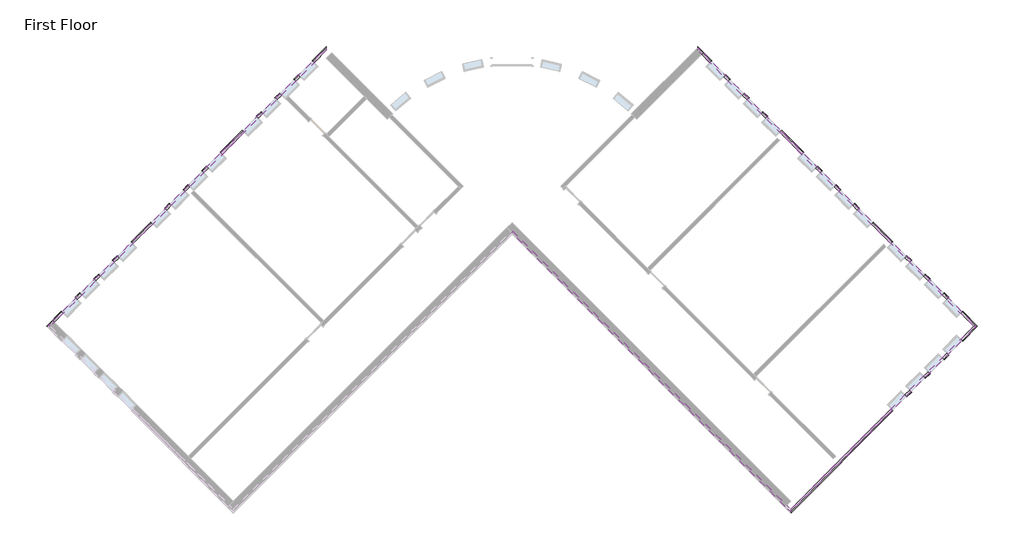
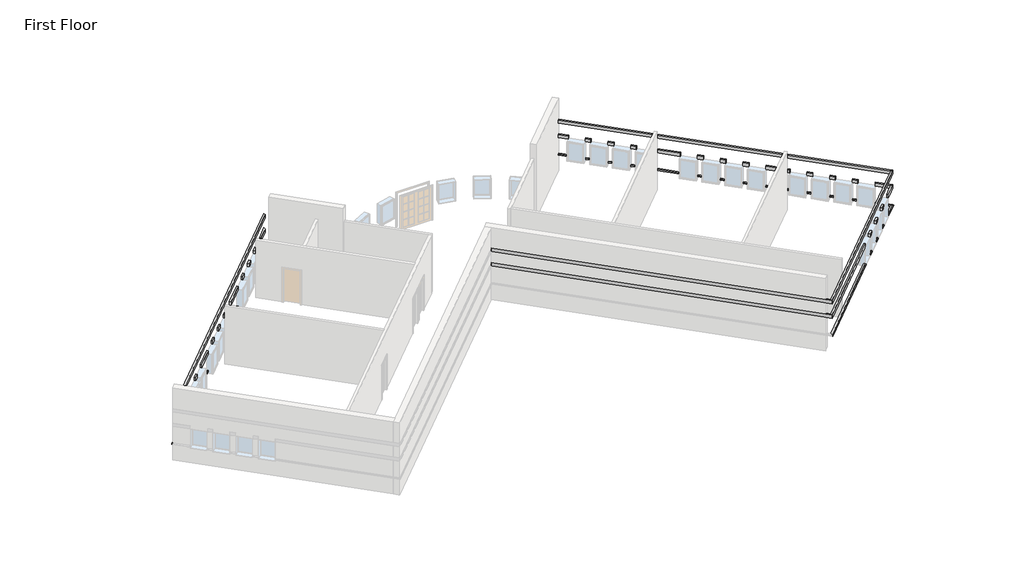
# One storey, part 3 of 3: 11 proxies.
"""IFC4 building model written with IfcOpenShell, lengths in millimetres."""

import ifcopenshell
import ifcopenshell.guid

model = None  # the IFC model being written
_history = None  # IfcOwnerHistory: only IFC2X3 demands one
_inside = {}  # id of a spatial element -> (the spatial element, [elements in it])
_under = {}  # id of a project, library or spatial element -> (it, [spatial elements below it])
_declared = {}  # id of a project -> (the project, [libraries it declares])
_typed = {}  # id of a type object -> (the type object, [elements of that type])
_made_of = {}  # id of a material, layer set ... -> (it, [elements and type objects made of it])


def new_model(schema):
    """Start an empty IFC model of exactly this schema.

    Asked for "IFC4X3", IfcOpenShell would pick the latest addendum, in which some entities
    have other attributes; the version numbers below select the first issue.
    IFC2X3 requires an IfcOwnerHistory on every rooted entity: one is made here for all.
    """
    global model, _history
    if schema == "IFC4X3":
        model = ifcopenshell.file(schema_version=(4, 3, 0, 0))
    else:
        model = ifcopenshell.file(schema=schema)
    _inside.clear()
    _under.clear()
    _declared.clear()
    _typed.clear()
    _made_of.clear()
    _history = None
    if model.schema == "IFC2X3":
        org = make("IfcOrganization", Name="unknown")
        user = make(
            "IfcPersonAndOrganization",
            ThePerson=make("IfcPerson", FamilyName="unknown"),
            TheOrganization=org,
        )
        app = make(
            "IfcApplication",
            ApplicationDeveloper=org,
            Version="unknown",
            ApplicationFullName="unknown",
            ApplicationIdentifier="unknown",
        )
        _history = make(
            "IfcOwnerHistory",
            OwningUser=user,
            OwningApplication=app,
            ChangeAction="ADDED",
            CreationDate=0,
        )
    return model


def make(cls, **values):
    """One entity of the class cls with the attributes given. An attribute that is None is left unset."""
    return model.create_entity(
        cls, **{name: value for name, value in values.items() if value is not None}
    )


def rooted(cls, **values):
    """An entity with a GlobalId (a new one), such as an element, a storey or a relation."""
    return make(cls, GlobalId=ifcopenshell.guid.new(), OwnerHistory=_history, **values)


def si_unit(unit_type, name, prefix=None):
    """IfcSIUnit, for example si_unit("LENGTHUNIT", "METRE", prefix="MILLI")."""
    return make("IfcSIUnit", UnitType=unit_type, Prefix=prefix, Name=name)


def assignment(units):
    """IfcUnitAssignment: the units of a project."""
    return None if units is None else make("IfcUnitAssignment", Units=units)


def point(xyz):
    """IfcCartesianPoint."""
    return None if xyz is None else make("IfcCartesianPoint", Coordinates=xyz)


def direction(xyz):
    """IfcDirection."""
    return None if xyz is None else make("IfcDirection", DirectionRatios=xyz)


def frame(location, z_axis=None, x_axis=None):
    """IfcAxis2Placement3D, a coordinate frame: its origin and axes. An axis left out is left unset."""
    return make(
        "IfcAxis2Placement3D",
        Location=point(location),
        Axis=direction(z_axis),
        RefDirection=direction(x_axis),
    )


def origin():
    """The frame at (0, 0, 0) with its axes left unset."""
    return frame((0.0, 0.0, 0.0))


def place(relative_to, where):
    """IfcLocalPlacement: puts the frame where relative to a parent placement (None: the world)."""
    return make(
        "IfcLocalPlacement", PlacementRelTo=relative_to, RelativePlacement=where
    )


def context(
    kind, dimensions, precision=None, world=None, true_north=None, identifier=None
):
    """IfcGeometricRepresentationContext, for example the 3D "Model" context."""
    return make(
        "IfcGeometricRepresentationContext",
        ContextIdentifier=identifier,
        ContextType=kind,
        CoordinateSpaceDimension=dimensions,
        Precision=precision,
        WorldCoordinateSystem=world,
        TrueNorth=true_north,
    )


def project(units=None, contexts=None):
    """IfcProject with its units and contexts."""
    return rooted(
        "IfcProject",
        Name="project",
        RepresentationContexts=contexts,
        UnitsInContext=assignment(units),
    )


def spatial(cls, under=None, at=None, **own):
    """A site, building, storey or space (cls), placed at a placement, below another one or the project."""
    s = rooted(cls, ObjectPlacement=at, **own)
    if under is not None:
        _under.setdefault(under.id(), (under, []))[1].append(s)
    return s


def faces_of(points, faces, orient=None, outer=None):
    """IfcFace entities. A face is a list of loops; a loop is a list of indices into points, from 0.

    orient and outer hold one flag for each loop. By default every Orientation is true, the
    first loop of a face is its IfcFaceOuterBound and the others are IfcFaceBound.
    """
    made = []
    for i, loops in enumerate(faces):
        bounds = []
        for j, loop in enumerate(loops):
            is_outer = j == 0 if outer is None else outer[i][j]
            bounds.append(
                make(
                    "IfcFaceOuterBound" if is_outer else "IfcFaceBound",
                    Bound=make("IfcPolyLoop", Polygon=[points[k] for k in loop]),
                    Orientation=True if orient is None else orient[i][j],
                )
            )
        made.append(make("IfcFace", Bounds=bounds))
    return made


def faceted_brep(points, faces, orient=None, outer=None, voids=None):
    """IfcFacetedBrep: a solid bounded by flat faces; with voids (closed shells), ...WithVoids."""
    shared = [point(p) for p in points]
    hull = make("IfcClosedShell", CfsFaces=faces_of(shared, faces, orient, outer))
    if voids is None:
        return make("IfcFacetedBrep", Outer=hull)
    return make(
        "IfcFacetedBrepWithVoids",
        Outer=hull,
        Voids=[
            make(cls, CfsFaces=faces_of(shared, fs, o, b)) for cls, fs, o, b in voids
        ],
    )


def shape(context_of_items, identifier, shape_type, items):
    """IfcShapeRepresentation: the items that make up one representation, for example the "Body"."""
    return make(
        "IfcShapeRepresentation",
        ContextOfItems=context_of_items,
        RepresentationIdentifier=identifier,
        RepresentationType=shape_type,
        Items=items,
    )


def made_of(thing, what):
    """Note that an element or type object is made of a material, layer set ...; save() writes the relation."""
    if what is not None:
        _made_of.setdefault(what.id(), (what, []))[1].append(thing)
    return thing


def element(
    cls,
    number,
    at=None,
    inside=None,
    cuts=None,
    type_object=None,
    material=None,
    context=None,
    identifier="Body",
    shape_type=None,
    held_by="IfcProductDefinitionShape",
    body=None,
    shapes=None,
    **own,
):
    """One element of the class cls, such as IfcWall. Its Tag is "e" and its number.

    at: its placement. inside: the storey or other place that contains it. cuts: it is an
    opening in that element (IfcRelVoidsElement). A single representation is given by context,
    identifier, shape_type and body (its items); several are given by shapes. held_by: the class
    of the entity that holds the representations. save() writes the other relations.
    """
    e = rooted(cls, Tag="e%d" % number, ObjectPlacement=at, **own)
    if body is not None:
        shapes = [shape(context, identifier, shape_type, body)]
    if shapes is not None:
        e.Representation = make(held_by, Representations=shapes)
    if inside is not None:
        _inside.setdefault(inside.id(), (inside, []))[1].append(e)
    if cuts is not None:
        rooted(
            "IfcRelVoidsElement", RelatingBuildingElement=cuts, RelatedOpeningElement=e
        )
    if type_object is not None:
        _typed.setdefault(type_object.id(), (type_object, []))[1].append(e)
    return made_of(e, material)


def aggregate(whole, parts):
    """IfcRelAggregates: a whole, such as a stair, and the parts it consists of."""
    return rooted("IfcRelAggregates", RelatingObject=whole, RelatedObjects=parts)


def save(model, path):
    """Write the relations noted so far, then the file.

    IfcRelAggregates (storeys below a building ...), IfcRelContainedInSpatialStructure (elements
    in a storey), IfcRelDefinesByType, IfcRelAssociatesMaterial and IfcRelDeclares: one each for
    every whole, place, type object, material and project.
    """
    for whole, parts in _under.values():
        aggregate(whole, parts)
    for where, things in _inside.values():
        rooted(
            "IfcRelContainedInSpatialStructure",
            RelatedElements=things,
            RelatingStructure=where,
        )
    for kind, things in _typed.values():
        rooted("IfcRelDefinesByType", RelatedObjects=things, RelatingType=kind)
    for what, things in _made_of.values():
        rooted("IfcRelAssociatesMaterial", RelatedObjects=things, RelatingMaterial=what)
    for by, libraries in _declared.values():
        rooted("IfcRelDeclares", RelatingContext=by, RelatedDefinitions=libraries)
    model.write(path)


model = new_model("IFC4")

# Units and contexts
model_context = context("Model", 3, world=origin())
ifc_project = project(units=[si_unit("LENGTHUNIT", "METRE", prefix="MILLI")], contexts=[model_context])

# Site, building, storey
site = spatial("IfcSite", under=ifc_project)
building = spatial("IfcBuilding", under=site)
storey = spatial("IfcBuildingStorey", under=building, Name="First Floor", Elevation=0.0)

# Proxies
placement = place(None, origin())
element("IfcBuildingElementProxy", 1, Name="Wall Sweeps", at=placement, inside=storey, context=model_context, shape_type="Brep", body=[
    faceted_brep([(5753.0175119, 11443.3655905, 1085.85), (5753.0175119, 11573.5793042, 1085.85), (5753.0175119, 11622.9707129, 1041.4), (5753.0175119, 11622.9707129, 1016.0), (5753.0175119, 11443.3655905, 1016.0), (6317.415551, 10878.9675514, 1085.85), (6317.415551, 10878.9675514, 1016.0), (6382.5224079, 10944.0744083, 1016.0), (6407.2181122, 10968.7701126, 1016.0), (6407.2181122, 10968.7701126, 1041.4), (6382.5224079, 10944.0744083, 1085.85), (5937.1127624, 11259.27034, 1085.85), (5937.1127624, 11259.27034, 1016.0)], [[[0, 1, 2, 3, 4]], [[5, 6, 7, 8, 9, 10]], [[1, 0, 11, 5, 10]], [[2, 1, 10, 9]], [[3, 2, 9, 8]], [[4, 3, 8, 7, 6, 12]], [[0, 4, 12, 6, 5, 11]]]),
    faceted_brep([(6963.9939917, 10232.3891107, 1085.85), (7029.1008486, 10297.4959676, 1085.85), (7053.7965529, 10322.1916719, 1041.4), (7053.7965529, 10322.1916719, 1016.0), (7029.1008486, 10297.4959676, 1016.0), (6963.9939917, 10232.3891107, 1016.0), (7179.5201386, 10016.8629638, 1085.85), (7179.5201386, 10016.8629638, 1016.0), (7244.6269955, 10081.9698207, 1016.0), (7269.3226998, 10106.665525, 1016.0), (7269.3226998, 10106.665525, 1041.4), (7244.6269955, 10081.9698207, 1085.85)], [[[0, 1, 2, 3, 4, 5]], [[6, 7, 8, 9, 10, 11]], [[1, 0, 6, 11]], [[2, 1, 11, 10]], [[3, 2, 10, 9]], [[5, 4, 3, 9, 8, 7]], [[0, 5, 7, 6]]]),
    faceted_brep([(7826.0985793, 9370.2845231, 1085.85), (7891.2054362, 9435.39138, 1085.85), (7915.9011405, 9460.0870843, 1041.4), (7915.9011405, 9460.0870843, 1016.0), (7891.2054362, 9435.39138, 1016.0), (7826.0985793, 9370.2845231, 1016.0), (8041.6247262, 9154.7583762, 1085.85), (8041.6247262, 9154.7583762, 1016.0), (8106.7315831, 9219.8652331, 1016.0), (8131.4272874, 9244.5609374, 1016.0), (8131.4272874, 9244.5609374, 1041.4), (8106.7315831, 9219.8652331, 1085.85)], [[[0, 1, 2, 3, 4, 5]], [[6, 7, 8, 9, 10, 11]], [[1, 0, 6, 11]], [[2, 1, 11, 10]], [[3, 2, 10, 9]], [[5, 4, 3, 9, 8, 7]], [[0, 5, 7, 6]]]),
    faceted_brep([(8688.2031669, 8508.1799355, 1085.85), (8753.3100238, 8573.2867923, 1085.85), (8778.0057282, 8597.9824967, 1041.4), (8778.0057282, 8597.9824967, 1016.0), (8753.3100238, 8573.2867923, 1016.0), (8688.2031669, 8508.1799355, 1016.0), (8903.7293139, 8292.6537886, 1085.85), (8903.7293139, 8292.6537886, 1016.0), (8968.8361707, 8357.7606454, 1016.0), (8993.5318751, 8382.4563498, 1016.0), (8993.5318751, 8382.4563498, 1041.4), (8968.8361707, 8357.7606454, 1085.85)], [[[0, 1, 2, 3, 4, 5]], [[6, 7, 8, 9, 10, 11]], [[1, 0, 6, 11]], [[2, 1, 11, 10]], [[3, 2, 10, 9]], [[5, 4, 3, 9, 8, 7]], [[0, 5, 7, 6]]]),
    faceted_brep([(9550.3077546, 7646.0753478, 1085.85), (9615.4146114, 7711.1822047, 1085.85), (9640.1103158, 7735.877909, 1041.4), (9640.1103158, 7735.877909, 1016.0), (9615.4146114, 7711.1822047, 1016.0), (9550.3077546, 7646.0753478, 1016.0), (10574.7639411, 6621.6191613, 1085.85), (10574.7639411, 6621.6191613, 1016.0), (10639.870798, 6686.7260182, 1016.0), (10664.5665023, 6711.4217225, 1016.0), (10664.5665023, 6711.4217225, 1041.4), (10639.870798, 6686.7260182, 1085.85)], [[[0, 1, 2, 3, 4, 5]], [[6, 7, 8, 9, 10, 11]], [[1, 0, 6, 11]], [[2, 1, 11, 10]], [[3, 2, 10, 9]], [[5, 4, 3, 9, 8, 7]], [[0, 5, 7, 6]]]),
    faceted_brep([(11221.3423818, 5975.0407206, 1085.85), (11286.4492387, 6040.1475775, 1085.85), (11311.144943, 6064.8432818, 1041.4), (11311.144943, 6064.8432818, 1016.0), (11286.4492387, 6040.1475775, 1016.0), (11221.3423818, 5975.0407206, 1016.0), (11436.8685287, 5759.5145737, 1085.85), (11436.8685287, 5759.5145737, 1016.0), (11501.9753856, 5824.6214306, 1016.0), (11526.6710899, 5849.3171349, 1016.0), (11526.6710899, 5849.3171349, 1041.4), (11501.9753856, 5824.6214306, 1085.85)], [[[0, 1, 2, 3, 4, 5]], [[6, 7, 8, 9, 10, 11]], [[1, 0, 6, 11]], [[2, 1, 11, 10]], [[3, 2, 10, 9]], [[5, 4, 3, 9, 8, 7]], [[0, 5, 7, 6]]]),
    faceted_brep([(12083.4469694, 5112.936133, 1085.85), (12148.5538263, 5178.0429899, 1085.85), (12173.2495306, 5202.7386942, 1041.4), (12173.2495306, 5202.7386942, 1016.0), (12148.5538263, 5178.0429899, 1016.0), (12083.4469694, 5112.936133, 1016.0), (12298.9731163, 4897.4099861, 1085.85), (12298.9731163, 4897.4099861, 1016.0), (12364.0799732, 4962.516843, 1016.0), (12388.7756775, 4987.2125473, 1016.0), (12388.7756775, 4987.2125473, 1041.4), (12364.0799732, 4962.516843, 1085.85)], [[[0, 1, 2, 3, 4, 5]], [[6, 7, 8, 9, 10, 11]], [[1, 0, 6, 11]], [[2, 1, 11, 10]], [[3, 2, 10, 9]], [[5, 4, 3, 9, 8, 7]], [[0, 5, 7, 6]]]),
    faceted_brep([(12945.551557, 4250.8315454, 1085.85), (13010.6584139, 4315.9384023, 1085.85), (13035.3541182, 4340.6341066, 1041.4), (13035.3541182, 4340.6341066, 1016.0), (13010.6584139, 4315.9384023, 1016.0), (12945.551557, 4250.8315454, 1016.0), (13161.0777039, 4035.3053985, 1085.85), (13161.0777039, 4035.3053985, 1016.0), (13226.1845608, 4100.4122553, 1016.0), (13250.8802652, 4125.1079597, 1016.0), (13250.8802652, 4125.1079597, 1041.4), (13226.1845608, 4100.4122553, 1085.85)], [[[0, 1, 2, 3, 4, 5]], [[6, 7, 8, 9, 10, 11]], [[1, 0, 6, 11]], [[2, 1, 11, 10]], [[3, 2, 10, 9]], [[5, 4, 3, 9, 8, 7]], [[0, 5, 7, 6]]]),
    faceted_brep([(13807.6561447, 3388.7269578, 1085.85), (13872.7630015, 3453.8338146, 1085.85), (13897.4587059, 3478.529519, 1041.4), (13897.4587059, 3478.529519, 1016.0), (13872.7630015, 3453.8338146, 1016.0), (13807.6561447, 3388.7269578, 1016.0), (14723.1708449, 2473.2122576, 1085.85), (14723.1708449, 2473.2122576, 1016.0), (14788.2777017, 2538.3191144, 1016.0), (14812.9734061, 2563.0148188, 1016.0), (14812.9734061, 2563.0148188, 1041.4), (14788.2777017, 2538.3191144, 1085.85)], [[[0, 1, 2, 3, 4, 5]], [[6, 7, 8, 9, 10, 11]], [[1, 0, 6, 11]], [[2, 1, 11, 10]], [[3, 2, 10, 9]], [[5, 4, 3, 9, 8, 7]], [[0, 5, 7, 6]]]),
    faceted_brep([(15369.7492856, 1826.6338168, 1085.85), (15434.8561424, 1891.7406737, 1085.85), (15459.5518468, 1916.4363781, 1041.4), (15459.5518468, 1916.4363781, 1016.0), (15434.8561424, 1891.7406737, 1016.0), (15369.7492856, 1826.6338168, 1016.0), (15585.2754325, 1611.1076699, 1085.85), (15585.2754325, 1611.1076699, 1016.0), (15650.3822894, 1676.2145268, 1016.0), (15675.0779937, 1700.9102311, 1016.0), (15675.0779937, 1700.9102311, 1041.4), (15650.3822894, 1676.2145268, 1085.85)], [[[0, 1, 2, 3, 4, 5]], [[6, 7, 8, 9, 10, 11]], [[1, 0, 6, 11]], [[2, 1, 11, 10]], [[3, 2, 10, 9]], [[5, 4, 3, 9, 8, 7]], [[0, 5, 7, 6]]]),
    faceted_brep([(16231.8538732, 964.5292292, 1085.85), (16296.9607301, 1029.6360861, 1085.85), (16321.6564344, 1054.3317904, 1041.4), (16321.6564344, 1054.3317904, 1016.0), (16296.9607301, 1029.6360861, 1016.0), (16231.8538732, 964.5292292, 1016.0), (16447.3800201, 749.0030823, 1085.85), (16447.3800201, 749.0030823, 1016.0), (16512.486877, 814.1099392, 1016.0), (16537.1825813, 838.8056435, 1016.0), (16537.1825813, 838.8056435, 1041.4), (16512.486877, 814.1099392, 1085.85)], [[[0, 1, 2, 3, 4, 5]], [[6, 7, 8, 9, 10, 11]], [[1, 0, 6, 11]], [[2, 1, 11, 10]], [[3, 2, 10, 9]], [[5, 4, 3, 9, 8, 7]], [[0, 5, 7, 6]]]),
    faceted_brep([(17093.9584608, 102.4246416, 1085.85), (17159.0653177, 167.5314985, 1085.85), (17183.761022, 192.2272028, 1041.4), (17183.761022, 192.2272028, 1016.0), (17159.0653177, 167.5314985, 1016.0), (17093.9584608, 102.4246416, 1016.0), (17309.4846077, -113.1015053, 1085.85), (17309.4846077, -113.1015053, 1016.0), (17374.5914646, -47.9946484, 1016.0), (17399.2871689, -23.2989441, 1016.0), (17399.2871689, -23.2989441, 1041.4), (17374.5914646, -47.9946484, 1085.85)], [[[0, 1, 2, 3, 4, 5]], [[6, 7, 8, 9, 10, 11]], [[1, 0, 6, 11]], [[2, 1, 11, 10]], [[3, 2, 10, 9]], [[5, 4, 3, 9, 8, 7]], [[0, 5, 7, 6]]]),
    faceted_brep([(17956.0630484, -759.679946, 1085.85), (18021.1699053, -694.5730891, 1085.85), (18045.8656096, -669.8773848, 1041.4), (18045.8656096, -669.8773848, 1016.0), (18021.1699053, -694.5730891, 1016.0), (17956.0630484, -759.679946, 1016.0), (18554.3726125, -1357.9895101, 1085.85), (18554.3726125, -1357.9895101, 1016.0), (18733.9777349, -1357.9895101, 1016.0), (18733.9777349, -1357.9895101, 1041.4), (18684.5863263, -1357.9895101, 1085.85)], [[[0, 1, 2, 3, 4, 5]], [[6, 7, 8, 9, 10]], [[1, 0, 6, 10]], [[2, 1, 10, 9]], [[3, 2, 9, 8]], [[5, 4, 3, 8, 7]], [[0, 5, 7, 6]]]),
])
element("IfcBuildingElementProxy", 2, Name="Wall Sweeps", at=placement, inside=storey, context=model_context, shape_type="Brep", body=[
    faceted_brep([(5753.0175119, 11573.5793042, 2336.8), (5753.0175119, 11573.5793042, 2133.6), (5753.0175119, 11443.3655905, 2133.6), (5753.0175119, 11443.3655905, 2336.8), (6382.5224079, 10944.0744083, 2336.8), (6317.415551, 10878.9675514, 2336.8), (6317.415551, 10878.9675514, 2133.6), (6382.5224079, 10944.0744083, 2133.6), (6002.2196193, 11324.3771969, 2336.8), (6002.2196193, 11324.3771969, 2133.6), (5937.1127624, 11259.27034, 2133.6), (5937.1127624, 11259.27034, 2336.8)], [[[0, 1, 2, 3]], [[4, 5, 6, 7]], [[1, 0, 8, 4, 7, 9]], [[2, 1, 9, 7, 6, 10]], [[3, 2, 10, 6, 5, 11]], [[0, 3, 11, 5, 4, 8]]]),
    faceted_brep([(7029.1008486, 10297.4959676, 2336.8), (7029.1008486, 10297.4959676, 2133.6), (6963.9939917, 10232.3891107, 2133.6), (6963.9939917, 10232.3891107, 2336.8), (7244.6269955, 10081.9698207, 2336.8), (7179.5201386, 10016.8629638, 2336.8), (7179.5201386, 10016.8629638, 2133.6), (7244.6269955, 10081.9698207, 2133.6)], [[[0, 1, 2, 3]], [[4, 5, 6, 7]], [[1, 0, 4, 7]], [[2, 1, 7, 6]], [[3, 2, 6, 5]], [[0, 3, 5, 4]]]),
    faceted_brep([(7891.2054362, 9435.39138, 2336.8), (7891.2054362, 9435.39138, 2133.6), (7826.0985793, 9370.2845231, 2133.6), (7826.0985793, 9370.2845231, 2336.8), (8106.7315831, 9219.8652331, 2336.8), (8041.6247262, 9154.7583762, 2336.8), (8041.6247262, 9154.7583762, 2133.6), (8106.7315831, 9219.8652331, 2133.6)], [[[0, 1, 2, 3]], [[4, 5, 6, 7]], [[1, 0, 4, 7]], [[2, 1, 7, 6]], [[3, 2, 6, 5]], [[0, 3, 5, 4]]]),
    faceted_brep([(8753.3100238, 8573.2867923, 2336.8), (8753.3100238, 8573.2867923, 2133.6), (8688.2031669, 8508.1799355, 2133.6), (8688.2031669, 8508.1799355, 2336.8), (8968.8361707, 8357.7606454, 2336.8), (8903.7293139, 8292.6537886, 2336.8), (8903.7293139, 8292.6537886, 2133.6), (8968.8361707, 8357.7606454, 2133.6)], [[[0, 1, 2, 3]], [[4, 5, 6, 7]], [[1, 0, 4, 7]], [[2, 1, 7, 6]], [[3, 2, 6, 5]], [[0, 3, 5, 4]]]),
    faceted_brep([(9615.4146114, 7711.1822047, 2336.8), (9615.4146114, 7711.1822047, 2133.6), (9550.3077546, 7646.0753478, 2133.6), (9550.3077546, 7646.0753478, 2336.8), (10639.870798, 6686.7260182, 2336.8), (10574.7639411, 6621.6191613, 2336.8), (10574.7639411, 6621.6191613, 2133.6), (10639.870798, 6686.7260182, 2133.6)], [[[0, 1, 2, 3]], [[4, 5, 6, 7]], [[1, 0, 4, 7]], [[2, 1, 7, 6]], [[3, 2, 6, 5]], [[0, 3, 5, 4]]]),
    faceted_brep([(11286.4492387, 6040.1475775, 2336.8), (11286.4492387, 6040.1475775, 2133.6), (11221.3423818, 5975.0407206, 2133.6), (11221.3423818, 5975.0407206, 2336.8), (11501.9753856, 5824.6214306, 2336.8), (11436.8685287, 5759.5145737, 2336.8), (11436.8685287, 5759.5145737, 2133.6), (11501.9753856, 5824.6214306, 2133.6)], [[[0, 1, 2, 3]], [[4, 5, 6, 7]], [[1, 0, 4, 7]], [[2, 1, 7, 6]], [[3, 2, 6, 5]], [[0, 3, 5, 4]]]),
    faceted_brep([(12148.5538263, 5178.0429899, 2336.8), (12148.5538263, 5178.0429899, 2133.6), (12083.4469694, 5112.936133, 2133.6), (12083.4469694, 5112.936133, 2336.8), (12364.0799732, 4962.516843, 2336.8), (12298.9731163, 4897.4099861, 2336.8), (12298.9731163, 4897.4099861, 2133.6), (12364.0799732, 4962.516843, 2133.6)], [[[0, 1, 2, 3]], [[4, 5, 6, 7]], [[1, 0, 4, 7]], [[2, 1, 7, 6]], [[3, 2, 6, 5]], [[0, 3, 5, 4]]]),
    faceted_brep([(13010.6584139, 4315.9384023, 2336.8), (13010.6584139, 4315.9384023, 2133.6), (12945.551557, 4250.8315454, 2133.6), (12945.551557, 4250.8315454, 2336.8), (13226.1845608, 4100.4122553, 2336.8), (13161.0777039, 4035.3053985, 2336.8), (13161.0777039, 4035.3053985, 2133.6), (13226.1845608, 4100.4122553, 2133.6)], [[[0, 1, 2, 3]], [[4, 5, 6, 7]], [[1, 0, 4, 7]], [[2, 1, 7, 6]], [[3, 2, 6, 5]], [[0, 3, 5, 4]]]),
    faceted_brep([(13872.7630015, 3453.8338146, 2336.8), (13872.7630015, 3453.8338146, 2133.6), (13807.6561447, 3388.7269578, 2133.6), (13807.6561447, 3388.7269578, 2336.8), (14788.2777017, 2538.3191144, 2336.8), (14723.1708449, 2473.2122576, 2336.8), (14723.1708449, 2473.2122576, 2133.6), (14788.2777017, 2538.3191144, 2133.6)], [[[0, 1, 2, 3]], [[4, 5, 6, 7]], [[1, 0, 4, 7]], [[2, 1, 7, 6]], [[3, 2, 6, 5]], [[0, 3, 5, 4]]]),
    faceted_brep([(15434.8561424, 1891.7406737, 2336.8), (15434.8561424, 1891.7406737, 2133.6), (15369.7492856, 1826.6338168, 2133.6), (15369.7492856, 1826.6338168, 2336.8), (15650.3822894, 1676.2145268, 2336.8), (15585.2754325, 1611.1076699, 2336.8), (15585.2754325, 1611.1076699, 2133.6), (15650.3822894, 1676.2145268, 2133.6)], [[[0, 1, 2, 3]], [[4, 5, 6, 7]], [[1, 0, 4, 7]], [[2, 1, 7, 6]], [[3, 2, 6, 5]], [[0, 3, 5, 4]]]),
    faceted_brep([(16296.9607301, 1029.6360861, 2336.8), (16296.9607301, 1029.6360861, 2133.6), (16231.8538732, 964.5292292, 2133.6), (16231.8538732, 964.5292292, 2336.8), (16512.486877, 814.1099392, 2336.8), (16447.3800201, 749.0030823, 2336.8), (16447.3800201, 749.0030823, 2133.6), (16512.486877, 814.1099392, 2133.6)], [[[0, 1, 2, 3]], [[4, 5, 6, 7]], [[1, 0, 4, 7]], [[2, 1, 7, 6]], [[3, 2, 6, 5]], [[0, 3, 5, 4]]]),
    faceted_brep([(17159.0653177, 167.5314985, 2336.8), (17159.0653177, 167.5314985, 2133.6), (17093.9584608, 102.4246416, 2133.6), (17093.9584608, 102.4246416, 2336.8), (17374.5914646, -47.9946484, 2336.8), (17309.4846077, -113.1015053, 2336.8), (17309.4846077, -113.1015053, 2133.6), (17374.5914646, -47.9946484, 2133.6)], [[[0, 1, 2, 3]], [[4, 5, 6, 7]], [[1, 0, 4, 7]], [[2, 1, 7, 6]], [[3, 2, 6, 5]], [[0, 3, 5, 4]]]),
    faceted_brep([(18021.1699053, -694.5730891, 2336.8), (18021.1699053, -694.5730891, 2133.6), (17956.0630484, -759.679946, 2133.6), (17956.0630484, -759.679946, 2336.8), (18684.5863263, -1357.9895101, 2336.8), (18554.3726125, -1357.9895101, 2336.8), (18554.3726125, -1357.9895101, 2133.6), (18684.5863263, -1357.9895101, 2133.6)], [[[0, 1, 2, 3]], [[4, 5, 6, 7]], [[1, 0, 4, 7]], [[2, 1, 7, 6]], [[3, 2, 6, 5]], [[0, 3, 5, 4]]]),
])
element("IfcBuildingElementProxy", 3, Name="Wall Sweeps", at=placement, inside=storey, context=model_context, shape_type="Brep", body=[
    faceted_brep([(5753.0175119, 11573.5793042, 3251.2), (5753.0175119, 11573.5793042, 3048.0), (5753.0175119, 11443.3655905, 3048.0), (5753.0175119, 11443.3655905, 3251.2), (18684.5863263, -1357.9895101, 3251.2), (18554.3726125, -1357.9895101, 3251.2), (18554.3726125, -1357.9895101, 3048.0), (18684.5863263, -1357.9895101, 3048.0), (6002.2196193, 11324.3771969, 3251.2), (6002.2196193, 11324.3771969, 3048.0), (5937.1127624, 11259.27034, 3048.0), (5937.1127624, 11259.27034, 3251.2)], [[[0, 1, 2, 3]], [[4, 5, 6, 7]], [[1, 0, 8, 4, 7, 9]], [[2, 1, 9, 7, 6, 10]], [[3, 2, 10, 6, 5, 11]], [[0, 3, 11, 5, 4, 8]]]),
])
element("IfcBuildingElementProxy", 4, Name="Wall Sweeps", at=placement, inside=storey, context=model_context, shape_type="Brep", body=[
    faceted_brep([(18554.3726125, -1357.9895101, 1085.85), (18684.5863263, -1357.9895101, 1085.85), (18733.9777349, -1357.9895101, 1041.4), (18733.9777349, -1357.9895101, 1016.0), (18554.3726125, -1357.9895101, 1016.0), (17956.0630484, -1956.2990742, 1085.85), (17956.0630484, -1956.2990742, 1016.0), (18021.1699053, -2021.405931, 1016.0), (18045.8656096, -2046.1016354, 1016.0), (18045.8656096, -2046.1016354, 1041.4), (18021.1699053, -2021.405931, 1085.85), (18370.277362, -1542.0847606, 1085.85), (18370.277362, -1542.0847606, 1016.0)], [[[0, 1, 2, 3, 4]], [[5, 6, 7, 8, 9, 10]], [[1, 0, 11, 5, 10]], [[2, 1, 10, 9]], [[3, 2, 9, 8]], [[4, 3, 8, 7, 6, 12]], [[0, 4, 12, 6, 5, 11]]]),
    faceted_brep([(17309.4846077, -2602.8775149, 1085.85), (17374.5914646, -2667.9843718, 1085.85), (17399.2871689, -2692.6800761, 1041.4), (17399.2871689, -2692.6800761, 1016.0), (17374.5914646, -2667.9843718, 1016.0), (17309.4846077, -2602.8775149, 1016.0), (17093.9584608, -2818.4036618, 1085.85), (17093.9584608, -2818.4036618, 1016.0), (17159.0653177, -2883.5105187, 1016.0), (17183.761022, -2908.206223, 1016.0), (17183.761022, -2908.206223, 1041.4), (17159.0653177, -2883.5105187, 1085.85)], [[[0, 1, 2, 3, 4, 5]], [[6, 7, 8, 9, 10, 11]], [[1, 0, 6, 11]], [[2, 1, 11, 10]], [[3, 2, 10, 9]], [[5, 4, 3, 9, 8, 7]], [[0, 5, 7, 6]]]),
    faceted_brep([(16447.3800201, -3464.9821025, 1085.85), (16512.486877, -3530.0889594, 1085.85), (16537.1825813, -3554.7846637, 1041.4), (16537.1825813, -3554.7846637, 1016.0), (16512.486877, -3530.0889594, 1016.0), (16447.3800201, -3464.9821025, 1016.0), (16231.8538732, -3680.5082494, 1085.85), (16231.8538732, -3680.5082494, 1016.0), (16296.9607301, -3745.6151063, 1016.0), (16321.6564344, -3770.3108106, 1016.0), (16321.6564344, -3770.3108106, 1041.4), (16296.9607301, -3745.6151063, 1085.85)], [[[0, 1, 2, 3, 4, 5]], [[6, 7, 8, 9, 10, 11]], [[1, 0, 6, 11]], [[2, 1, 11, 10]], [[3, 2, 10, 9]], [[5, 4, 3, 9, 8, 7]], [[0, 5, 7, 6]]]),
    faceted_brep([(15585.2754325, -4327.0866901, 1085.85), (15650.3822894, -4392.193547, 1085.85), (15675.0779937, -4416.8892513, 1041.4), (15675.0779937, -4416.8892513, 1016.0), (15650.3822894, -4392.193547, 1016.0), (15585.2754325, -4327.0866901, 1016.0), (15369.7492856, -4542.612837, 1085.85), (15369.7492856, -4542.612837, 1016.0), (15434.8561424, -4607.7196939, 1016.0), (15459.5518468, -4632.4153982, 1016.0), (15459.5518468, -4632.4153982, 1041.4), (15434.8561424, -4607.7196939, 1085.85)], [[[0, 1, 2, 3, 4, 5]], [[6, 7, 8, 9, 10, 11]], [[1, 0, 6, 11]], [[2, 1, 11, 10]], [[3, 2, 10, 9]], [[5, 4, 3, 9, 8, 7]], [[0, 5, 7, 6]]]),
    faceted_brep([(14723.1708449, -5189.1912777, 1085.85), (14788.2777017, -5254.2981346, 1085.85), (14812.9734061, -5278.993839, 1041.4), (14812.9734061, -5278.993839, 1016.0), (14788.2777017, -5254.2981346, 1016.0), (14723.1708449, -5189.1912777, 1016.0), (10063.54045, -9848.8216726, 1085.85), (10063.54045, -9848.8216726, 1016.0), (10063.54045, -10028.426795, 1016.0), (10063.54045, -10028.426795, 1041.4), (10063.54045, -9979.0353863, 1085.85)], [[[0, 1, 2, 3, 4, 5]], [[6, 7, 8, 9, 10]], [[1, 0, 6, 10]], [[2, 1, 10, 9]], [[3, 2, 9, 8]], [[5, 4, 3, 8, 7]], [[0, 5, 7, 6]]]),
])
element("IfcBuildingElementProxy", 5, Name="Wall Sweeps", at=placement, inside=storey, context=model_context, shape_type="Brep", body=[
    faceted_brep([(18684.5863263, -1357.9895101, 2336.8), (18684.5863263, -1357.9895101, 2133.6), (18554.3726125, -1357.9895101, 2133.6), (18554.3726125, -1357.9895101, 2336.8), (18021.1699053, -2021.405931, 2336.8), (17956.0630484, -1956.2990742, 2336.8), (17956.0630484, -1956.2990742, 2133.6), (18021.1699053, -2021.405931, 2133.6), (18435.3842189, -1607.1916175, 2336.8), (18435.3842189, -1607.1916175, 2133.6), (18370.277362, -1542.0847606, 2133.6), (18370.277362, -1542.0847606, 2336.8)], [[[0, 1, 2, 3]], [[4, 5, 6, 7]], [[1, 0, 8, 4, 7, 9]], [[2, 1, 9, 7, 6, 10]], [[3, 2, 10, 6, 5, 11]], [[0, 3, 11, 5, 4, 8]]]),
    faceted_brep([(17374.5914646, -2667.9843718, 2336.8), (17374.5914646, -2667.9843718, 2133.6), (17309.4846077, -2602.8775149, 2133.6), (17309.4846077, -2602.8775149, 2336.8), (17159.0653177, -2883.5105187, 2336.8), (17093.9584608, -2818.4036618, 2336.8), (17093.9584608, -2818.4036618, 2133.6), (17159.0653177, -2883.5105187, 2133.6)], [[[0, 1, 2, 3]], [[4, 5, 6, 7]], [[1, 0, 4, 7]], [[2, 1, 7, 6]], [[3, 2, 6, 5]], [[0, 3, 5, 4]]]),
    faceted_brep([(16512.486877, -3530.0889594, 2336.8), (16512.486877, -3530.0889594, 2133.6), (16447.3800201, -3464.9821025, 2133.6), (16447.3800201, -3464.9821025, 2336.8), (16296.9607301, -3745.6151063, 2336.8), (16231.8538732, -3680.5082494, 2336.8), (16231.8538732, -3680.5082494, 2133.6), (16296.9607301, -3745.6151063, 2133.6)], [[[0, 1, 2, 3]], [[4, 5, 6, 7]], [[1, 0, 4, 7]], [[2, 1, 7, 6]], [[3, 2, 6, 5]], [[0, 3, 5, 4]]]),
    faceted_brep([(15650.3822894, -4392.193547, 2336.8), (15650.3822894, -4392.193547, 2133.6), (15585.2754325, -4327.0866901, 2133.6), (15585.2754325, -4327.0866901, 2336.8), (15434.8561424, -4607.7196939, 2336.8), (15369.7492856, -4542.612837, 2336.8), (15369.7492856, -4542.612837, 2133.6), (15434.8561424, -4607.7196939, 2133.6)], [[[0, 1, 2, 3]], [[4, 5, 6, 7]], [[1, 0, 4, 7]], [[2, 1, 7, 6]], [[3, 2, 6, 5]], [[0, 3, 5, 4]]]),
    faceted_brep([(14788.2777017, -5254.2981346, 2336.8), (14788.2777017, -5254.2981346, 2133.6), (14723.1708449, -5189.1912777, 2133.6), (14723.1708449, -5189.1912777, 2336.8), (10063.54045, -9979.0353863, 2336.8), (10063.54045, -9848.8216726, 2336.8), (10063.54045, -9848.8216726, 2133.6), (10063.54045, -9979.0353863, 2133.6)], [[[0, 1, 2, 3]], [[4, 5, 6, 7]], [[1, 0, 4, 7]], [[2, 1, 7, 6]], [[3, 2, 6, 5]], [[0, 3, 5, 4]]]),
])
element("IfcBuildingElementProxy", 6, Name="Wall Sweeps", at=placement, inside=storey, context=model_context, shape_type="Brep", body=[
    faceted_brep([(18684.5863263, -1357.9895101, 3251.2), (18684.5863263, -1357.9895101, 3048.0), (18554.3726125, -1357.9895101, 3048.0), (18554.3726125, -1357.9895101, 3251.2), (10063.54045, -9979.0353863, 3251.2), (10063.54045, -9848.8216726, 3251.2), (10063.54045, -9848.8216726, 3048.0), (10063.54045, -9979.0353863, 3048.0), (18435.3842189, -1607.1916175, 3251.2), (18435.3842189, -1607.1916175, 3048.0), (18370.277362, -1542.0847606, 3048.0), (18370.277362, -1542.0847606, 3251.2)], [[[0, 1, 2, 3]], [[4, 5, 6, 7]], [[1, 0, 8, 4, 7, 9]], [[2, 1, 9, 7, 6, 10]], [[3, 2, 10, 6, 5, 11]], [[0, 3, 11, 5, 4, 8]]]),
])
element("IfcBuildingElementProxy", 7, Name="Wall Sweeps", at=placement, inside=storey, context=model_context, shape_type="Brep", body=[
    faceted_brep([(10063.54045, -9979.0353863, 2336.8), (10063.54045, -9979.0353863, 2133.6), (10063.54045, -9848.8216726, 2133.6), (10063.54045, -9848.8216726, 2336.8), (-2868.0283643, 2952.533428, 2336.8), (-2868.0283643, 3082.7471418, 2336.8), (-2868.0283643, 3082.7471418, 2133.6), (-2868.0283643, 2952.533428, 2133.6), (9814.3383427, -9729.833279, 2336.8), (9814.3383427, -9729.833279, 2133.6), (9879.4451996, -9664.7264221, 2133.6), (9879.4451996, -9664.7264221, 2336.8)], [[[0, 1, 2, 3]], [[4, 5, 6, 7]], [[1, 0, 8, 4, 7, 9]], [[2, 1, 9, 7, 6, 10]], [[3, 2, 10, 6, 5, 11]], [[0, 3, 11, 5, 4, 8]]]),
])
element("IfcBuildingElementProxy", 8, Name="Wall Sweeps", at=placement, inside=storey, context=model_context, shape_type="Brep", body=[
    faceted_brep([(10063.54045, -9979.0353863, 3251.2), (10063.54045, -9979.0353863, 3048.0), (10063.54045, -9848.8216726, 3048.0), (10063.54045, -9848.8216726, 3251.2), (-2868.0283643, 2952.533428, 3251.2), (-2868.0283643, 3082.7471418, 3251.2), (-2868.0283643, 3082.7471418, 3048.0), (-2868.0283643, 2952.533428, 3048.0), (9814.3383427, -9729.833279, 3251.2), (9814.3383427, -9729.833279, 3048.0), (9879.4451996, -9664.7264221, 3048.0), (9879.4451996, -9664.7264221, 3251.2)], [[[0, 1, 2, 3]], [[4, 5, 6, 7]], [[1, 0, 8, 4, 7, 9]], [[2, 1, 9, 7, 6, 10]], [[3, 2, 10, 6, 5, 11]], [[0, 3, 11, 5, 4, 8]]]),
])
element("IfcBuildingElementProxy", 9, Name="Wall Sweeps", at=placement, inside=storey, context=model_context, shape_type="Brep", body=[
    faceted_brep([(-24290.4293411, -1357.9895101, 1085.85), (-24420.6430549, -1357.9895101, 1085.85), (-24470.0344635, -1357.9895101, 1041.4), (-24470.0344635, -1357.9895101, 1016.0), (-24290.4293411, -1357.9895101, 1016.0), (-23692.119777, -759.679946, 1085.85), (-23692.119777, -759.679946, 1016.0), (-23757.2266339, -694.5730891, 1016.0), (-23781.9223383, -669.8773848, 1016.0), (-23781.9223383, -669.8773848, 1041.4), (-23757.2266339, -694.5730891, 1085.85), (-24106.3340906, -1173.8942596, 1085.85), (-24106.3340906, -1173.8942596, 1016.0)], [[[0, 1, 2, 3, 4]], [[5, 6, 7, 8, 9, 10]], [[1, 0, 11, 5, 10]], [[2, 1, 10, 9]], [[3, 2, 9, 8]], [[4, 3, 8, 7, 6, 12]], [[0, 4, 12, 6, 5, 11]]]),
    faceted_brep([(-23045.5413363, -113.1015053, 1085.85), (-23110.6481932, -47.9946484, 1085.85), (-23135.3438975, -23.2989441, 1041.4), (-23135.3438975, -23.2989441, 1016.0), (-23110.6481932, -47.9946484, 1016.0), (-23045.5413363, -113.1015053, 1016.0), (-22830.0151894, 102.4246416, 1085.85), (-22830.0151894, 102.4246416, 1016.0), (-22895.1220463, 167.5314985, 1016.0), (-22919.8177506, 192.2272028, 1016.0), (-22919.8177506, 192.2272028, 1041.4), (-22895.1220463, 167.5314985, 1085.85)], [[[0, 1, 2, 3, 4, 5]], [[6, 7, 8, 9, 10, 11]], [[1, 0, 6, 11]], [[2, 1, 11, 10]], [[3, 2, 10, 9]], [[5, 4, 3, 9, 8, 7]], [[0, 5, 7, 6]]]),
    faceted_brep([(-22183.4367487, 749.0030823, 1085.85), (-22248.5436056, 814.1099392, 1085.85), (-22273.2393099, 838.8056435, 1041.4), (-22273.2393099, 838.8056435, 1016.0), (-22248.5436056, 814.1099392, 1016.0), (-22183.4367487, 749.0030823, 1016.0), (-21967.9106018, 964.5292292, 1085.85), (-21967.9106018, 964.5292292, 1016.0), (-22033.0174587, 1029.6360861, 1016.0), (-22057.713163, 1054.3317904, 1016.0), (-22057.713163, 1054.3317904, 1041.4), (-22033.0174587, 1029.6360861, 1085.85)], [[[0, 1, 2, 3, 4, 5]], [[6, 7, 8, 9, 10, 11]], [[1, 0, 6, 11]], [[2, 1, 11, 10]], [[3, 2, 10, 9]], [[5, 4, 3, 9, 8, 7]], [[0, 5, 7, 6]]]),
    faceted_brep([(-21321.3321611, 1611.1076699, 1085.85), (-21386.439018, 1676.2145268, 1085.85), (-21411.1347223, 1700.9102311, 1041.4), (-21411.1347223, 1700.9102311, 1016.0), (-21386.439018, 1676.2145268, 1016.0), (-21321.3321611, 1611.1076699, 1016.0), (-21105.8060142, 1826.6338168, 1085.85), (-21105.8060142, 1826.6338168, 1016.0), (-21170.9128711, 1891.7406737, 1016.0), (-21195.6085754, 1916.4363781, 1016.0), (-21195.6085754, 1916.4363781, 1041.4), (-21170.9128711, 1891.7406737, 1085.85)], [[[0, 1, 2, 3, 4, 5]], [[6, 7, 8, 9, 10, 11]], [[1, 0, 6, 11]], [[2, 1, 11, 10]], [[3, 2, 10, 9]], [[5, 4, 3, 9, 8, 7]], [[0, 5, 7, 6]]]),
    faceted_brep([(-20459.2275735, 2473.2122576, 1085.85), (-20524.3344303, 2538.3191144, 1085.85), (-20549.0301347, 2563.0148188, 1041.4), (-20549.0301347, 2563.0148188, 1016.0), (-20524.3344303, 2538.3191144, 1016.0), (-20459.2275735, 2473.2122576, 1016.0), (-19543.7128733, 3388.7269578, 1085.85), (-19543.7128733, 3388.7269578, 1016.0), (-19608.8197301, 3453.8338146, 1016.0), (-19633.5154345, 3478.529519, 1016.0), (-19633.5154345, 3478.529519, 1041.4), (-19608.8197301, 3453.8338146, 1085.85)], [[[0, 1, 2, 3, 4, 5]], [[6, 7, 8, 9, 10, 11]], [[1, 0, 6, 11]], [[2, 1, 11, 10]], [[3, 2, 10, 9]], [[5, 4, 3, 9, 8, 7]], [[0, 5, 7, 6]]]),
    faceted_brep([(-18897.1344326, 4035.3053985, 1085.85), (-18962.2412894, 4100.4122553, 1085.85), (-18986.9369938, 4125.1079597, 1041.4), (-18986.9369938, 4125.1079597, 1016.0), (-18962.2412894, 4100.4122553, 1016.0), (-18897.1344326, 4035.3053985, 1016.0), (-18681.6082856, 4250.8315454, 1085.85), (-18681.6082856, 4250.8315454, 1016.0), (-18746.7151425, 4315.9384023, 1016.0), (-18771.4108469, 4340.6341066, 1016.0), (-18771.4108469, 4340.6341066, 1041.4), (-18746.7151425, 4315.9384023, 1085.85)], [[[0, 1, 2, 3, 4, 5]], [[6, 7, 8, 9, 10, 11]], [[1, 0, 6, 11]], [[2, 1, 11, 10]], [[3, 2, 10, 9]], [[5, 4, 3, 9, 8, 7]], [[0, 5, 7, 6]]]),
    faceted_brep([(-18035.0298449, 4897.4099861, 1085.85), (-18100.1367018, 4962.516843, 1085.85), (-18124.8324061, 4987.2125473, 1041.4), (-18124.8324061, 4987.2125473, 1016.0), (-18100.1367018, 4962.516843, 1016.0), (-18035.0298449, 4897.4099861, 1016.0), (-17819.503698, 5112.936133, 1085.85), (-17819.503698, 5112.936133, 1016.0), (-17884.6105549, 5178.0429899, 1016.0), (-17909.3062592, 5202.7386942, 1016.0), (-17909.3062592, 5202.7386942, 1041.4), (-17884.6105549, 5178.0429899, 1085.85)], [[[0, 1, 2, 3, 4, 5]], [[6, 7, 8, 9, 10, 11]], [[1, 0, 6, 11]], [[2, 1, 11, 10]], [[3, 2, 10, 9]], [[5, 4, 3, 9, 8, 7]], [[0, 5, 7, 6]]]),
    faceted_brep([(-17172.9252573, 5759.5145737, 1085.85), (-17238.0321142, 5824.6214306, 1085.85), (-17262.7278185, 5849.3171349, 1041.4), (-17262.7278185, 5849.3171349, 1016.0), (-17238.0321142, 5824.6214306, 1016.0), (-17172.9252573, 5759.5145737, 1016.0), (-16957.3991104, 5975.0407206, 1085.85), (-16957.3991104, 5975.0407206, 1016.0), (-17022.5059673, 6040.1475775, 1016.0), (-17047.2016716, 6064.8432818, 1016.0), (-17047.2016716, 6064.8432818, 1041.4), (-17022.5059673, 6040.1475775, 1085.85)], [[[0, 1, 2, 3, 4, 5]], [[6, 7, 8, 9, 10, 11]], [[1, 0, 6, 11]], [[2, 1, 11, 10]], [[3, 2, 10, 9]], [[5, 4, 3, 9, 8, 7]], [[0, 5, 7, 6]]]),
    faceted_brep([(-16310.8206697, 6621.6191613, 1085.85), (-16375.9275266, 6686.7260182, 1085.85), (-16400.6232309, 6711.4217225, 1041.4), (-16400.6232309, 6711.4217225, 1016.0), (-16375.9275266, 6686.7260182, 1016.0), (-16310.8206697, 6621.6191613, 1016.0), (-15286.3644832, 7646.0753478, 1085.85), (-15286.3644832, 7646.0753478, 1016.0), (-15351.4713401, 7711.1822047, 1016.0), (-15376.1670444, 7735.877909, 1016.0), (-15376.1670444, 7735.877909, 1041.4), (-15351.4713401, 7711.1822047, 1085.85)], [[[0, 1, 2, 3, 4, 5]], [[6, 7, 8, 9, 10, 11]], [[1, 0, 6, 11]], [[2, 1, 11, 10]], [[3, 2, 10, 9]], [[5, 4, 3, 9, 8, 7]], [[0, 5, 7, 6]]]),
    faceted_brep([(-14639.7860425, 8292.6537886, 1085.85), (-14704.8928993, 8357.7606454, 1085.85), (-14729.5886037, 8382.4563498, 1041.4), (-14729.5886037, 8382.4563498, 1016.0), (-14704.8928993, 8357.7606454, 1016.0), (-14639.7860425, 8292.6537886, 1016.0), (-14424.2598956, 8508.1799355, 1085.85), (-14424.2598956, 8508.1799355, 1016.0), (-14489.3667524, 8573.2867923, 1016.0), (-14514.0624568, 8597.9824967, 1016.0), (-14514.0624568, 8597.9824967, 1041.4), (-14489.3667524, 8573.2867923, 1085.85)], [[[0, 1, 2, 3, 4, 5]], [[6, 7, 8, 9, 10, 11]], [[1, 0, 6, 11]], [[2, 1, 11, 10]], [[3, 2, 10, 9]], [[5, 4, 3, 9, 8, 7]], [[0, 5, 7, 6]]]),
    faceted_brep([(-13777.6814548, 9154.7583762, 1085.85), (-13842.7883117, 9219.8652331, 1085.85), (-13867.4840161, 9244.5609374, 1041.4), (-13867.4840161, 9244.5609374, 1016.0), (-13842.7883117, 9219.8652331, 1016.0), (-13777.6814548, 9154.7583762, 1016.0), (-13562.1553079, 9370.2845231, 1085.85), (-13562.1553079, 9370.2845231, 1016.0), (-13627.2621648, 9435.39138, 1016.0), (-13651.9578691, 9460.0870843, 1016.0), (-13651.9578691, 9460.0870843, 1041.4), (-13627.2621648, 9435.39138, 1085.85)], [[[0, 1, 2, 3, 4, 5]], [[6, 7, 8, 9, 10, 11]], [[1, 0, 6, 11]], [[2, 1, 11, 10]], [[3, 2, 10, 9]], [[5, 4, 3, 9, 8, 7]], [[0, 5, 7, 6]]]),
    faceted_brep([(-12915.5768672, 10016.8629638, 1085.85), (-12980.6837241, 10081.9698207, 1085.85), (-13005.3794284, 10106.665525, 1041.4), (-13005.3794284, 10106.665525, 1016.0), (-12980.6837241, 10081.9698207, 1016.0), (-12915.5768672, 10016.8629638, 1016.0), (-12700.0507203, 10232.3891107, 1085.85), (-12700.0507203, 10232.3891107, 1016.0), (-12765.1575772, 10297.4959676, 1016.0), (-12789.8532815, 10322.1916719, 1016.0), (-12789.8532815, 10322.1916719, 1041.4), (-12765.1575772, 10297.4959676, 1085.85)], [[[0, 1, 2, 3, 4, 5]], [[6, 7, 8, 9, 10, 11]], [[1, 0, 6, 11]], [[2, 1, 11, 10]], [[3, 2, 10, 9]], [[5, 4, 3, 9, 8, 7]], [[0, 5, 7, 6]]]),
    faceted_brep([(-12053.4722796, 10878.9675514, 1085.85), (-12118.5791365, 10944.0744083, 1085.85), (-12143.2748408, 10968.7701126, 1041.4), (-12143.2748408, 10968.7701126, 1016.0), (-12118.5791365, 10944.0744083, 1016.0), (-12053.4722796, 10878.9675514, 1016.0), (-11489.0742405, 11443.3655905, 1085.85), (-11489.0742405, 11443.3655905, 1016.0), (-11489.0742405, 11622.9707129, 1016.0), (-11489.0742405, 11622.9707129, 1041.4), (-11489.0742405, 11573.5793042, 1085.85)], [[[0, 1, 2, 3, 4, 5]], [[6, 7, 8, 9, 10]], [[1, 0, 6, 10]], [[2, 1, 10, 9]], [[3, 2, 9, 8]], [[5, 4, 3, 8, 7]], [[0, 5, 7, 6]]]),
])
element("IfcBuildingElementProxy", 10, Name="Wall Sweeps", at=placement, inside=storey, context=model_context, shape_type="Brep", body=[
    faceted_brep([(-24420.6430549, -1357.9895101, 2336.8), (-24420.6430549, -1357.9895101, 2133.6), (-24290.4293411, -1357.9895101, 2133.6), (-24290.4293411, -1357.9895101, 2336.8), (-23757.2266339, -694.5730891, 2336.8), (-23692.119777, -759.679946, 2336.8), (-23692.119777, -759.679946, 2133.6), (-23757.2266339, -694.5730891, 2133.6), (-24171.4409475, -1108.7874027, 2336.8), (-24171.4409475, -1108.7874027, 2133.6), (-24106.3340906, -1173.8942596, 2133.6), (-24106.3340906, -1173.8942596, 2336.8)], [[[0, 1, 2, 3]], [[4, 5, 6, 7]], [[1, 0, 8, 4, 7, 9]], [[2, 1, 9, 7, 6, 10]], [[3, 2, 10, 6, 5, 11]], [[0, 3, 11, 5, 4, 8]]]),
    faceted_brep([(-23110.6481932, -47.9946484, 2336.8), (-23110.6481932, -47.9946484, 2133.6), (-23045.5413363, -113.1015053, 2133.6), (-23045.5413363, -113.1015053, 2336.8), (-22895.1220463, 167.5314985, 2336.8), (-22830.0151894, 102.4246416, 2336.8), (-22830.0151894, 102.4246416, 2133.6), (-22895.1220463, 167.5314985, 2133.6)], [[[0, 1, 2, 3]], [[4, 5, 6, 7]], [[1, 0, 4, 7]], [[2, 1, 7, 6]], [[3, 2, 6, 5]], [[0, 3, 5, 4]]]),
    faceted_brep([(-22248.5436056, 814.1099392, 2336.8), (-22248.5436056, 814.1099392, 2133.6), (-22183.4367487, 749.0030823, 2133.6), (-22183.4367487, 749.0030823, 2336.8), (-22033.0174587, 1029.6360861, 2336.8), (-21967.9106018, 964.5292292, 2336.8), (-21967.9106018, 964.5292292, 2133.6), (-22033.0174587, 1029.6360861, 2133.6)], [[[0, 1, 2, 3]], [[4, 5, 6, 7]], [[1, 0, 4, 7]], [[2, 1, 7, 6]], [[3, 2, 6, 5]], [[0, 3, 5, 4]]]),
    faceted_brep([(-21386.439018, 1676.2145268, 2336.8), (-21386.439018, 1676.2145268, 2133.6), (-21321.3321611, 1611.1076699, 2133.6), (-21321.3321611, 1611.1076699, 2336.8), (-21170.9128711, 1891.7406737, 2336.8), (-21105.8060142, 1826.6338168, 2336.8), (-21105.8060142, 1826.6338168, 2133.6), (-21170.9128711, 1891.7406737, 2133.6)], [[[0, 1, 2, 3]], [[4, 5, 6, 7]], [[1, 0, 4, 7]], [[2, 1, 7, 6]], [[3, 2, 6, 5]], [[0, 3, 5, 4]]]),
    faceted_brep([(-20524.3344303, 2538.3191144, 2336.8), (-20524.3344303, 2538.3191144, 2133.6), (-20459.2275735, 2473.2122576, 2133.6), (-20459.2275735, 2473.2122576, 2336.8), (-19608.8197301, 3453.8338146, 2336.8), (-19543.7128733, 3388.7269578, 2336.8), (-19543.7128733, 3388.7269578, 2133.6), (-19608.8197301, 3453.8338146, 2133.6)], [[[0, 1, 2, 3]], [[4, 5, 6, 7]], [[1, 0, 4, 7]], [[2, 1, 7, 6]], [[3, 2, 6, 5]], [[0, 3, 5, 4]]]),
    faceted_brep([(-18962.2412894, 4100.4122553, 2336.8), (-18962.2412894, 4100.4122553, 2133.6), (-18897.1344326, 4035.3053985, 2133.6), (-18897.1344326, 4035.3053985, 2336.8), (-18746.7151425, 4315.9384023, 2336.8), (-18681.6082856, 4250.8315454, 2336.8), (-18681.6082856, 4250.8315454, 2133.6), (-18746.7151425, 4315.9384023, 2133.6)], [[[0, 1, 2, 3]], [[4, 5, 6, 7]], [[1, 0, 4, 7]], [[2, 1, 7, 6]], [[3, 2, 6, 5]], [[0, 3, 5, 4]]]),
    faceted_brep([(-18100.1367018, 4962.516843, 2336.8), (-18100.1367018, 4962.516843, 2133.6), (-18035.0298449, 4897.4099861, 2133.6), (-18035.0298449, 4897.4099861, 2336.8), (-17884.6105549, 5178.0429899, 2336.8), (-17819.503698, 5112.936133, 2336.8), (-17819.503698, 5112.936133, 2133.6), (-17884.6105549, 5178.0429899, 2133.6)], [[[0, 1, 2, 3]], [[4, 5, 6, 7]], [[1, 0, 4, 7]], [[2, 1, 7, 6]], [[3, 2, 6, 5]], [[0, 3, 5, 4]]]),
    faceted_brep([(-17238.0321142, 5824.6214306, 2336.8), (-17238.0321142, 5824.6214306, 2133.6), (-17172.9252573, 5759.5145737, 2133.6), (-17172.9252573, 5759.5145737, 2336.8), (-17022.5059673, 6040.1475775, 2336.8), (-16957.3991104, 5975.0407206, 2336.8), (-16957.3991104, 5975.0407206, 2133.6), (-17022.5059673, 6040.1475775, 2133.6)], [[[0, 1, 2, 3]], [[4, 5, 6, 7]], [[1, 0, 4, 7]], [[2, 1, 7, 6]], [[3, 2, 6, 5]], [[0, 3, 5, 4]]]),
    faceted_brep([(-16375.9275266, 6686.7260182, 2336.8), (-16375.9275266, 6686.7260182, 2133.6), (-16310.8206697, 6621.6191613, 2133.6), (-16310.8206697, 6621.6191613, 2336.8), (-15351.4713401, 7711.1822047, 2336.8), (-15286.3644832, 7646.0753478, 2336.8), (-15286.3644832, 7646.0753478, 2133.6), (-15351.4713401, 7711.1822047, 2133.6)], [[[0, 1, 2, 3]], [[4, 5, 6, 7]], [[1, 0, 4, 7]], [[2, 1, 7, 6]], [[3, 2, 6, 5]], [[0, 3, 5, 4]]]),
    faceted_brep([(-14704.8928993, 8357.7606454, 2336.8), (-14704.8928993, 8357.7606454, 2133.6), (-14639.7860425, 8292.6537886, 2133.6), (-14639.7860425, 8292.6537886, 2336.8), (-14489.3667524, 8573.2867923, 2336.8), (-14424.2598956, 8508.1799355, 2336.8), (-14424.2598956, 8508.1799355, 2133.6), (-14489.3667524, 8573.2867923, 2133.6)], [[[0, 1, 2, 3]], [[4, 5, 6, 7]], [[1, 0, 4, 7]], [[2, 1, 7, 6]], [[3, 2, 6, 5]], [[0, 3, 5, 4]]]),
    faceted_brep([(-13842.7883117, 9219.8652331, 2336.8), (-13842.7883117, 9219.8652331, 2133.6), (-13777.6814548, 9154.7583762, 2133.6), (-13777.6814548, 9154.7583762, 2336.8), (-13627.2621648, 9435.39138, 2336.8), (-13562.1553079, 9370.2845231, 2336.8), (-13562.1553079, 9370.2845231, 2133.6), (-13627.2621648, 9435.39138, 2133.6)], [[[0, 1, 2, 3]], [[4, 5, 6, 7]], [[1, 0, 4, 7]], [[2, 1, 7, 6]], [[3, 2, 6, 5]], [[0, 3, 5, 4]]]),
    faceted_brep([(-12980.6837241, 10081.9698207, 2336.8), (-12980.6837241, 10081.9698207, 2133.6), (-12915.5768672, 10016.8629638, 2133.6), (-12915.5768672, 10016.8629638, 2336.8), (-12765.1575772, 10297.4959676, 2336.8), (-12700.0507203, 10232.3891107, 2336.8), (-12700.0507203, 10232.3891107, 2133.6), (-12765.1575772, 10297.4959676, 2133.6)], [[[0, 1, 2, 3]], [[4, 5, 6, 7]], [[1, 0, 4, 7]], [[2, 1, 7, 6]], [[3, 2, 6, 5]], [[0, 3, 5, 4]]]),
    faceted_brep([(-12118.5791365, 10944.0744083, 2336.8), (-12118.5791365, 10944.0744083, 2133.6), (-12053.4722796, 10878.9675514, 2133.6), (-12053.4722796, 10878.9675514, 2336.8), (-11489.0742405, 11573.5793042, 2336.8), (-11489.0742405, 11443.3655905, 2336.8), (-11489.0742405, 11443.3655905, 2133.6), (-11489.0742405, 11573.5793042, 2133.6)], [[[0, 1, 2, 3]], [[4, 5, 6, 7]], [[1, 0, 4, 7]], [[2, 1, 7, 6]], [[3, 2, 6, 5]], [[0, 3, 5, 4]]]),
])
element("IfcBuildingElementProxy", 11, Name="Wall Sweeps", at=placement, inside=storey, context=model_context, shape_type="Brep", body=[
    faceted_brep([(-24420.6430549, -1357.9895101, 3251.2), (-24420.6430549, -1357.9895101, 3048.0), (-24290.4293411, -1357.9895101, 3048.0), (-24290.4293411, -1357.9895101, 3251.2), (-11489.0742405, 11573.5793042, 3251.2), (-11489.0742405, 11443.3655905, 3251.2), (-11489.0742405, 11443.3655905, 3048.0), (-11489.0742405, 11573.5793042, 3048.0), (-24171.4409475, -1108.7874027, 3251.2), (-24171.4409475, -1108.7874027, 3048.0), (-24106.3340906, -1173.8942596, 3048.0), (-24106.3340906, -1173.8942596, 3251.2)], [[[0, 1, 2, 3]], [[4, 5, 6, 7]], [[1, 0, 8, 4, 7, 9]], [[2, 1, 9, 7, 6, 10]], [[3, 2, 10, 6, 5, 11]], [[0, 3, 11, 5, 4, 8]]]),
])

save(model, "model.ifc")
